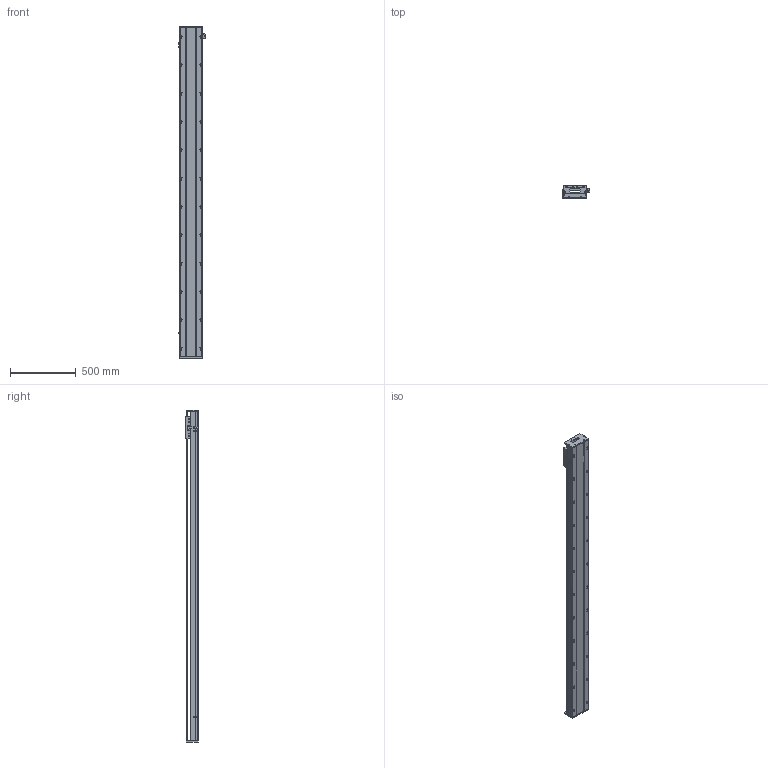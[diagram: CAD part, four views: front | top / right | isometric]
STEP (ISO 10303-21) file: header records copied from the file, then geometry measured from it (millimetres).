
FILE_DESCRIPTION (( 'STEP AP203' ), '1' );
FILE_NAME ('SKR17S-C1-S2262（简）.STEP', '2022-09-29T06:32:56', ( '' ), ( '' ), 'SwSTEP 2.0', 'SolidWorks 2018', '' );
FILE_SCHEMA (( 'CONFIG_CONTROL_DESIGN' ));
Length unit declared in the file: millimetre
Products named in the file (8): SIKO棠掑; 感应片（SKR12S-14S-17S）; EE-SX672; SKR17S-C1-S2262（简）; SKR17滑台-170L（简）; SKR17底座-C1-S2262（简); SKR17耜啣; 棠掑假蚾輸
Assembly tree (10 placements, depth 2):
  SKR17S-C1-S2262（简）
    SKR17底座-C1-S2262（简)
    SKR17滑台-170L（简）
    SIKO棠掑
    EE-SX672  x3
    SKR17耜啣  x2
    棠掑假蚾輸
    感应片（SKR12S-14S-17S）
Bounding box: 212.7 x 97 x 2532 mm (x, y, z)
Volume: 19312140.9 mm3; surface area: 2329959.6 mm2
Topology: 11 solids, 11 shells, 1377 faces, 3840 edges, 2469 vertices
Faces by surface type: cylinder 686, plane 551, cone 140
Entity records: 43398 total; most frequent: CARTESIAN_POINT 12089, ORIENTED_EDGE 6660, DIRECTION 6016, EDGE_CURVE 3330, VERTEX_POINT 2173, AXIS2_PLACEMENT_3D 2148, LINE 1720, VECTOR 1720
